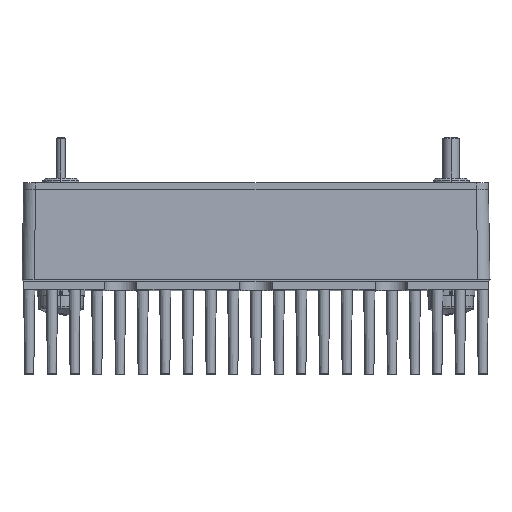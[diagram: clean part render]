
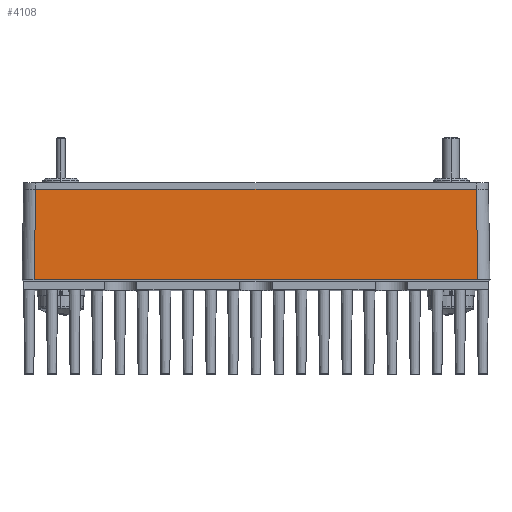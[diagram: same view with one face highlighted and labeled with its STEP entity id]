
A CAD part, top view. The second image highlights one B-rep face of the part: STEP entity #4108.
In plain terms, the highlighted planar face has unit normal (0, 0.018, 1).
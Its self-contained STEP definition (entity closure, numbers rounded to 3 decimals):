
#1054 = LINE ( 'NONE', #30172, #25763 ) ;
#1918 = CARTESIAN_POINT ( 'NONE',  ( 26.46, -5.807, 91.482 ) ) ;
#2022 = LINE ( 'NONE', #37757, #17537 ) ;
#2090 = DIRECTION ( 'NONE',  ( 0., 0.017, 1. ) ) ;
#4108 = ADVANCED_FACE ( 'NONE', ( #19169 ), #26739, .T. ) ;
#4650 = CARTESIAN_POINT ( 'NONE',  ( 26.478, -6.845, 91.5 ) ) ;
#5388 = CARTESIAN_POINT ( 'NONE',  ( -28.423, -6.845, 91.5 ) ) ;
#6756 = EDGE_CURVE ( 'NONE', #35944, #35334, #1054, .T. ) ;
#7771 = ORIENTED_EDGE ( 'NONE', *, *, #20346, .T. ) ;
#11304 = VERTEX_POINT ( 'NONE', #5388 ) ;
#11636 = DIRECTION ( 'NONE',  ( -1., 0., 0. ) ) ;
#11704 = LINE ( 'NONE', #1918, #34435 ) ;
#12957 = ORIENTED_EDGE ( 'NONE', *, *, #6756, .T. ) ;
#13225 = EDGE_LOOP ( 'NONE', ( #31614, #33022, #12957, #7771 ) ) ;
#17537 = VECTOR ( 'NONE', #34757, 1000. ) ;
#19155 = CARTESIAN_POINT ( 'NONE',  ( 26.282, 4.355, 91.305 ) ) ;
#19169 = FACE_OUTER_BOUND ( 'NONE', #13225, .T. ) ;
#20346 = EDGE_CURVE ( 'NONE', #35334, #11304, #2022, .T. ) ;
#20392 = DIRECTION ( 'NONE',  ( 1., 0., 0. ) ) ;
#20676 = CARTESIAN_POINT ( 'NONE',  ( -29.922, -6.845, 91.5 ) ) ;
#23295 = EDGE_CURVE ( 'NONE', #35944, #27803, #11704, .T. ) ;
#23765 = DIRECTION ( 'NONE',  ( 0., -1., 0.017 ) ) ;
#25763 = VECTOR ( 'NONE', #11636, 1000. ) ;
#26739 = PLANE ( 'NONE',  #35725 ) ;
#27803 = VERTEX_POINT ( 'NONE', #4650 ) ;
#29928 = VECTOR ( 'NONE', #20392, 1000. ) ;
#30172 = CARTESIAN_POINT ( 'NONE',  ( -29.727, 4.355, 91.305 ) ) ;
#31614 = ORIENTED_EDGE ( 'NONE', *, *, #37520, .T. ) ;
#32672 = CARTESIAN_POINT ( 'NONE',  ( -29.922, -6.845, 91.5 ) ) ;
#33022 = ORIENTED_EDGE ( 'NONE', *, *, #23295, .F. ) ;
#34435 = VECTOR ( 'NONE', #39079, 1000. ) ;
#34757 = DIRECTION ( 'NONE',  ( -0.017, -1., 0.017 ) ) ;
#35334 = VERTEX_POINT ( 'NONE', #37878 ) ;
#35725 = AXIS2_PLACEMENT_3D ( 'NONE', #20676, #2090, #23765 ) ;
#35944 = VERTEX_POINT ( 'NONE', #19155 ) ;
#37520 = EDGE_CURVE ( 'NONE', #11304, #27803, #38189, .T. ) ;
#37757 = CARTESIAN_POINT ( 'NONE',  ( -28.227, 4.355, 91.305 ) ) ;
#37878 = CARTESIAN_POINT ( 'NONE',  ( -28.227, 4.355, 91.305 ) ) ;
#38189 = LINE ( 'NONE', #32672, #29928 ) ;
#39079 = DIRECTION ( 'NONE',  ( 0.017, -1., 0.017 ) ) ;
